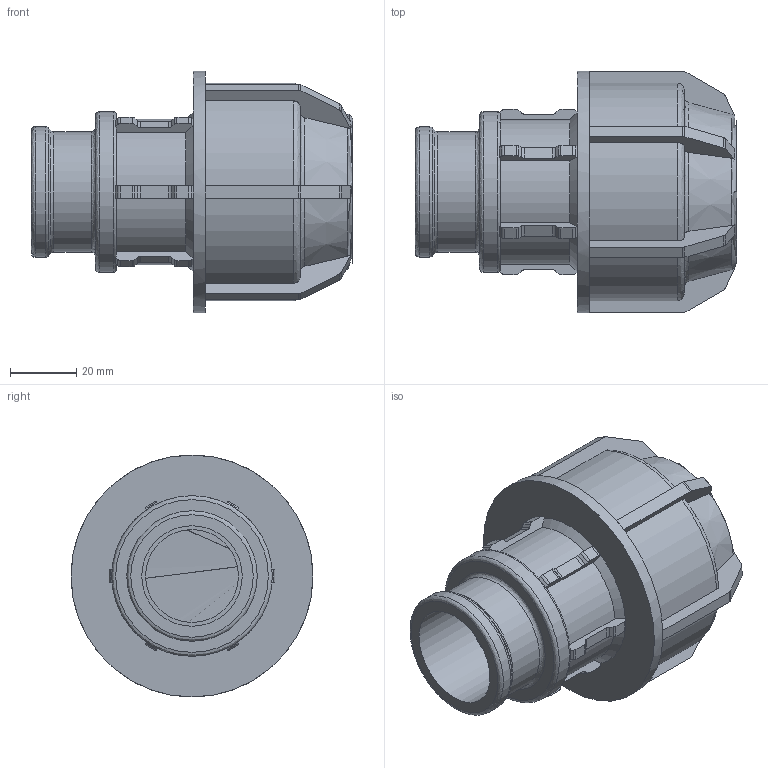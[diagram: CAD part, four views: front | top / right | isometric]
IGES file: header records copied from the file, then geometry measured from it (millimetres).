
Global section: file name: 140300040010.ipt; native system: Autodesk Inventor 2015; preprocessor: unknown; author: KIM; date: 20180409.131010; units: millimetre
Bounding box: 97 x 73 x 73 mm (x, y, z)
Volume: 108569.1 mm3; surface area: 37084.2 mm2
Topology: 1 solids, 1 shells, 259 faces, 727 edges, 471 vertices
Faces by surface type: plane 158, cylinder 52, revolution 36, cone 13
Full cylindrical faces by diameter (mm): 36.349 x1, 39.378 x1, 48.466 x1, 73 x1
